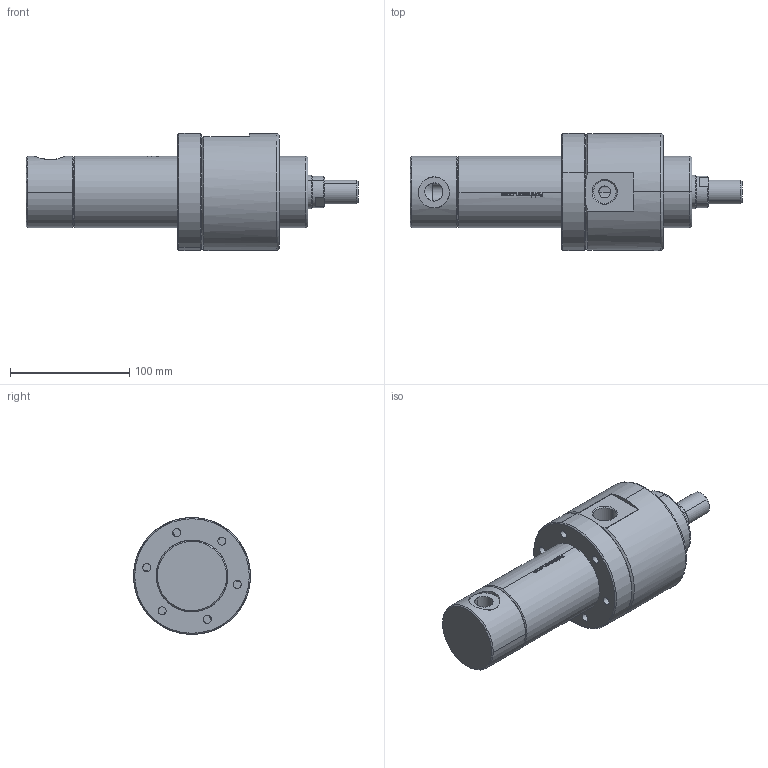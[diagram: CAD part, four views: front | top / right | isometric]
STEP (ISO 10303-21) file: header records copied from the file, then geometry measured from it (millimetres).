
FILE_DESCRIPTION (( 'STEP AP214' ), '1' );
FILE_NAME ('KHCC_50_28_50_WEB.STEP', '2020-12-15T11:39:38', ( '' ), ( '' ), 'SwSTEP 2.0', 'SolidWorks 2021', '' );
FILE_SCHEMA (( 'AUTOMOTIVE_DESIGN' ));
Length unit declared in the file: millimetre
Products named in the file (9): K06-28X38_2X5_3X7; K32-28X38X6; 50_28_烰_KAPAK; 50_H.BORU_WEB; KHCC_50_28_50_WEB; 50_28_gerdirme_flans; TYAK_50_60; 28_K_MIL_WEB
Assembly tree (8 placements, depth 3):
  KHCC_50_28_50_WEB
    50_28_烰_KAPAK
      50_28_烰_KAPAK
      K06-28X38_2X5_3X7
      K32-28X38X6
      50_28_gerdirme_flans
    50_H.BORU_WEB
    28_K_MIL_WEB
    TYAK_50_60
Bounding box: 278 x 98 x 98 mm (x, y, z)
Volume: 789575 mm3; surface area: 153931.8 mm2
Topology: 7 solids, 7 shells, 468 faces, 1110 edges, 690 vertices
Faces by surface type: bspline 165, plane 120, cylinder 113, cone 66, torus 4
Entity records: 20644 total; most frequent: CARTESIAN_POINT 8588, ORIENTED_EDGE 2220, DIRECTION 1674, EDGE_CURVE 1110, VERTEX_POINT 690, AXIS2_PLACEMENT_3D 621, EDGE_LOOP 540, ADVANCED_FACE 468
